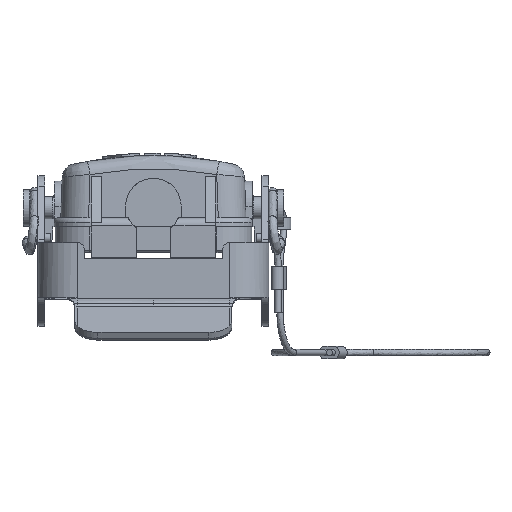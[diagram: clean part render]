
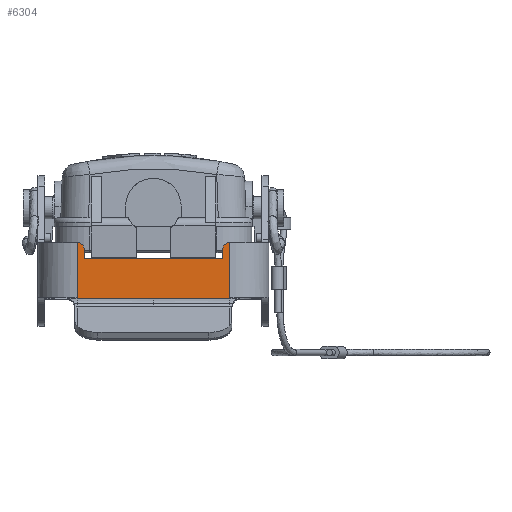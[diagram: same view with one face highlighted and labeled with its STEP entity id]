
A CAD part, left-side view. The second image highlights one B-rep face of the part: STEP entity #6304.
In plain terms, the highlighted planar face has unit normal (-1, 0, 0).
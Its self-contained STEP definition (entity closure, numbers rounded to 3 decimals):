
#3836=FACE_OUTER_BOUND('',#7500,.T.);
#4269=PLANE('',#14073);
#4597=LINE('',#20525,#5233);
#4601=LINE('',#20534,#5237);
#4609=LINE('',#20558,#5245);
#4610=LINE('',#20560,#5246);
#4611=LINE('',#20562,#5247);
#4612=LINE('',#20564,#5248);
#4613=LINE('',#20566,#5249);
#4614=LINE('',#20567,#5250);
#5233=VECTOR('',#15143,1.);
#5237=VECTOR('',#15149,1.);
#5245=VECTOR('',#15167,1.);
#5246=VECTOR('',#15168,1.);
#5247=VECTOR('',#15169,1.);
#5248=VECTOR('',#15170,1.);
#5249=VECTOR('',#15171,1.);
#5250=VECTOR('',#15172,1.);
#5862=B_SPLINE_CURVE_WITH_KNOTS('',3,(#20468,#20469,#20470,#20471),
 .UNSPECIFIED.,.F.,.F.,(4,4),(0.,1.),.UNSPECIFIED.);
#6304=ADVANCED_FACE('',(#3836),#4269,.T.);
#6943=CIRCLE('',#14065,1.5);
#6944=CIRCLE('',#14069,1.5);
#7500=EDGE_LOOP('',(#8745,#8746,#8747,#8748,#8749,#8750,#8751,#8752,#8753,
#8754,#8755));
#8745=ORIENTED_EDGE('',*,*,#12213,.T.);
#8746=ORIENTED_EDGE('',*,*,#12214,.T.);
#8747=ORIENTED_EDGE('',*,*,#12215,.T.);
#8748=ORIENTED_EDGE('',*,*,#12216,.F.);
#8749=ORIENTED_EDGE('',*,*,#12217,.F.);
#8750=ORIENTED_EDGE('',*,*,#12182,.F.);
#8751=ORIENTED_EDGE('',*,*,#12197,.T.);
#8752=ORIENTED_EDGE('',*,*,#12218,.T.);
#8753=ORIENTED_EDGE('',*,*,#12198,.T.);
#8754=ORIENTED_EDGE('',*,*,#12202,.T.);
#8755=ORIENTED_EDGE('',*,*,#12205,.T.);
#11131=VERTEX_POINT('',#20466);
#11133=VERTEX_POINT('',#20472);
#11141=VERTEX_POINT('',#20522);
#11142=VERTEX_POINT('',#20526);
#11143=VERTEX_POINT('',#20527);
#11146=VERTEX_POINT('',#20535);
#11148=VERTEX_POINT('',#20541);
#11153=VERTEX_POINT('',#20559);
#11154=VERTEX_POINT('',#20561);
#11155=VERTEX_POINT('',#20563);
#11156=VERTEX_POINT('',#20565);
#12182=EDGE_CURVE('',#11131,#11133,#5862,.T.);
#12197=EDGE_CURVE('',#11131,#11141,#6943,.T.);
#12198=EDGE_CURVE('',#11142,#11143,#4597,.T.);
#12202=EDGE_CURVE('',#11143,#11146,#4601,.T.);
#12205=EDGE_CURVE('',#11146,#11148,#6944,.T.);
#12213=EDGE_CURVE('',#11148,#11153,#4609,.T.);
#12214=EDGE_CURVE('',#11153,#11154,#4610,.T.);
#12215=EDGE_CURVE('',#11154,#11155,#4611,.T.);
#12216=EDGE_CURVE('',#11156,#11155,#4612,.T.);
#12217=EDGE_CURVE('',#11133,#11156,#4613,.T.);
#12218=EDGE_CURVE('',#11141,#11142,#4614,.T.);
#14065=AXIS2_PLACEMENT_3D('',#20523,#15139,#15140);
#14069=AXIS2_PLACEMENT_3D('',#20540,#15154,#15155);
#14073=AXIS2_PLACEMENT_3D('',#20568,#15173,#15174);
#15139=DIRECTION('',(-1.,0.,0.));
#15140=DIRECTION('',(0.,0.,1.));
#15143=DIRECTION('',(0.,1.,0.));
#15149=DIRECTION('',(0.,0.,1.));
#15154=DIRECTION('',(-1.,0.,0.));
#15155=DIRECTION('',(0.,-1.,0.));
#15167=DIRECTION('',(0.,0.,-1.));
#15168=DIRECTION('',(0.,0.,-1.));
#15169=DIRECTION('',(0.,-1.,0.));
#15170=DIRECTION('',(0.,1.,0.));
#15171=DIRECTION('',(0.,0.,-1.));
#15172=DIRECTION('',(0.,0.,-1.));
#15173=DIRECTION('',(-1.,0.,0.));
#15174=DIRECTION('',(0.,-1.,0.));
#20466=CARTESIAN_POINT('',(-50.5,-16.5,-3.649));
#20468=CARTESIAN_POINT('',(-50.5,-16.5,-3.649));
#20469=CARTESIAN_POINT('',(-50.5,-16.5,-7.649));
#20470=CARTESIAN_POINT('',(-50.5,-16.5,-11.649));
#20471=CARTESIAN_POINT('',(-50.5,-16.5,-15.649));
#20472=CARTESIAN_POINT('',(-50.5,-16.5,-15.649));
#20522=CARTESIAN_POINT('',(-50.5,-15.,-5.149));
#20523=CARTESIAN_POINT('',(-50.5,-16.5,-5.149));
#20525=CARTESIAN_POINT('',(-50.5,-15.,-7.149));
#20526=CARTESIAN_POINT('',(-50.5,-15.,-7.149));
#20527=CARTESIAN_POINT('',(-50.5,15.,-7.149));
#20534=CARTESIAN_POINT('',(-50.5,15.,-7.149));
#20535=CARTESIAN_POINT('',(-50.5,15.,-5.149));
#20540=CARTESIAN_POINT('',(-50.5,16.5,-5.149));
#20541=CARTESIAN_POINT('',(-50.5,16.5,-3.649));
#20558=CARTESIAN_POINT('',(-50.5,16.5,-3.649));
#20559=CARTESIAN_POINT('',(-50.5,16.5,-15.649));
#20560=CARTESIAN_POINT('',(-50.5,16.5,-15.649));
#20561=CARTESIAN_POINT('',(-50.5,16.5,-15.878));
#20562=CARTESIAN_POINT('',(-50.5,16.5,-15.878));
#20563=CARTESIAN_POINT('',(-50.5,0.,-15.878));
#20564=CARTESIAN_POINT('',(-50.5,-16.5,-15.878));
#20565=CARTESIAN_POINT('',(-50.5,-16.5,-15.878));
#20566=CARTESIAN_POINT('',(-50.5,-16.5,-15.649));
#20567=CARTESIAN_POINT('',(-50.5,-15.,-5.149));
#20568=CARTESIAN_POINT('',(-50.5,17.5,-16.049));
